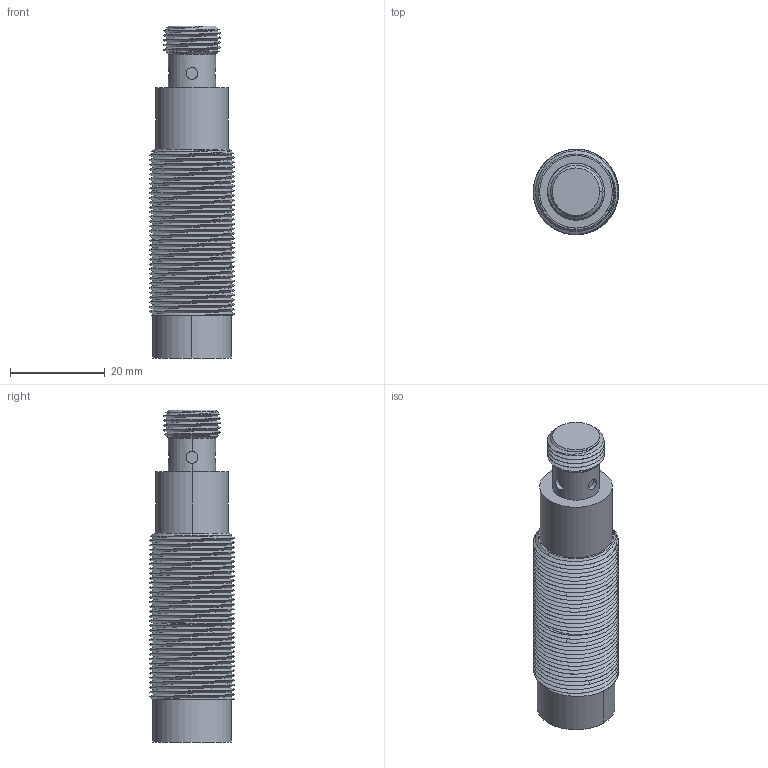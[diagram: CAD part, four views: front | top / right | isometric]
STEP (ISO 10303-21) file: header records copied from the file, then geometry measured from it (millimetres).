
FILE_DESCRIPTION((''),'2;1');
FILE_NAME('RF-HM18_3D','2023-09-21T',('user'),(''),'PRO/ENGINEER BY PARAMETRIC TECHNOLOGY CORPORATION, 2014320','PRO/ENGINEER BY PARAMETRIC TECHNOLOGY CORPORATION, 2014320','');
FILE_SCHEMA(('CONFIG_CONTROL_DESIGN'));
Length unit declared in the file: millimetre
Products named in the file (1): RF-HM18_3D
Bounding box: 18 x 18 x 70 mm (x, y, z)
Volume: 13500.4 mm3; surface area: 6314.7 mm2
Topology: 2 solids, 2 shells, 134 faces, 381 edges, 255 vertices
Faces by surface type: cylinder 89, bspline 29, plane 10, cone 6
Entity records: 14419 total; most frequent: CARTESIAN_POINT 11388, ORIENTED_EDGE 762, DIRECTION 401, EDGE_CURVE 381, VERTEX_POINT 255, B_SPLINE_CURVE_WITH_KNOTS 227, AXIS2_PLACEMENT_3D 142, EDGE_LOOP 138
